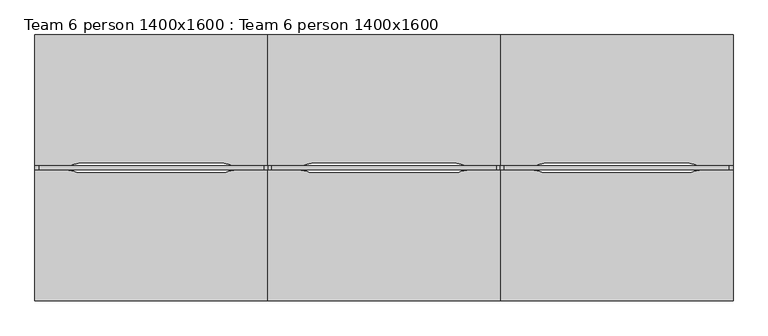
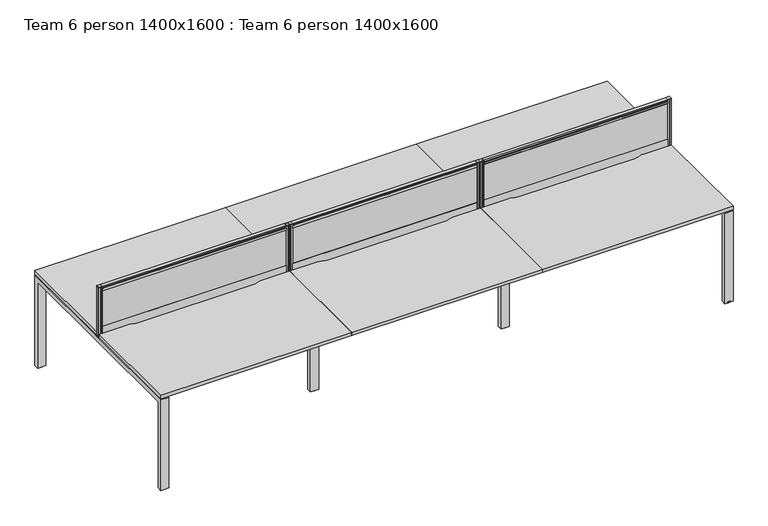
"""IFC4 building model written with IfcOpenShell, lengths in millimetres: furniture geometry, Team 6 person 1400x1600 : Team 6 person 1400x1600."""

from ifc_helpers import new_model, si_unit, point, frame, frame_2d, origin, origin_with_axes, place, context, project, spatial, polyline, circle_curve, trimmed, segment, composite_curve, outline, extrude, faceted_brep, source, transform, mapped, element, save


def team_6_person_1400x1600_team_6_person_1400x1600_f9ec3fc5(model_context):
    return source(origin(), model_context, "Body", "SolidModel", [
        extrude(outline(polyline([(724.2155827, 10.5), (2075.0, 10.5), (2075.0, -10.5), (724.2155827, -10.5), (724.2155827, 10.5)])), frame((0.0, 0.0, 785.0), z_axis=(0.0, 0.0, 1.0), x_axis=(1.0, 0.0, 0.0)), (0.0, 0.0, 1.0), 286.0),
        extrude(outline(polyline([(724.2155827, 12.5), (2075.0, 12.5), (2075.0, -12.5), (724.2155827, -12.5), (724.2155827, 12.5)])), frame((0.0, 0.0, 715.0), z_axis=(0.0, 0.0, 1.0), x_axis=(1.0, 0.0, 0.0)), (0.0, 0.0, 1.0), 75.0),
        extrude(outline(polyline([(12.5, 1100.0), (12.5, 1092.0), (10.5, 1092.0), (10.5, 1083.0), (12.5, 1083.0), (12.5, 1066.0), (-12.5, 1066.0), (-12.5, 1083.0), (-10.5, 1083.0), (-10.5, 1092.0), (-12.5, 1092.0), (-12.5, 1100.0), (12.5, 1100.0)])), frame((724.2155827, 0.0, 0.0), z_axis=(1.0, 0.0, 0.0), x_axis=(0.0, 1.0, 0.0)), (0.0, 0.0, 1.0), 1350.7844173),
        extrude(outline(polyline([(710.2155827, -12.5), (699.2155827, -12.5), (699.2155827, -1.5), (703.2155827, -1.5), (703.2155827, 1.5), (699.2155827, 1.5), (699.2155827, 12.5), (710.2155827, 12.5), (710.2155827, 8.5), (713.2155827, 8.5), (713.2155827, 12.5), (724.2155827, 12.5), (724.2155827, 1.5), (720.2155827, 1.5), (720.2155827, -1.5), (724.2155827, -1.5), (724.2155827, -12.5), (713.2155827, -12.5), (713.2155827, -8.5), (710.2155827, -8.5), (710.2155827, -12.5)])), frame((0.0, 0.0, 718.0), z_axis=(0.0, 0.0, 1.0), x_axis=(1.0, 0.0, 0.0)), (0.0, 0.0, 1.0), 379.0),
        extrude(outline(polyline([(2089.0, -12.5), (2089.0, -8.5), (2086.0, -8.5), (2086.0, -12.5), (2075.0, -12.5), (2075.0, -1.5), (2079.0, -1.5), (2079.0, 1.5), (2075.0, 1.5), (2075.0, 12.5), (2086.0, 12.5), (2086.0, 8.5), (2089.0, 8.5), (2089.0, 12.5), (2100.0, 12.5), (2100.0, 1.5), (2096.0, 1.5), (2096.0, -1.5), (2100.0, -1.5), (2100.0, -12.5), (2089.0, -12.5)])), frame((0.0, 0.0, 718.0), z_axis=(0.0, 0.0, 1.0), x_axis=(1.0, 0.0, 0.0)), (0.0, 0.0, 1.0), 379.0),
        extrude(outline(polyline([(2100.0, 12.5), (2100.0, -12.5), (2075.0, -12.5), (2075.0, 12.5), (2100.0, 12.5)])), frame((0.0, 0.0, 1097.0), z_axis=(0.0, 0.0, 1.0), x_axis=(1.0, 0.0, 0.0)), (0.0, 0.0, 1.0), 3.0),
        extrude(outline(polyline([(699.2155827, 12.5), (724.2155827, 12.5), (724.2155827, -12.5), (699.2155827, -12.5), (699.2155827, 12.5)])), frame((0.0, 0.0, 1097.0), z_axis=(0.0, 0.0, 1.0), x_axis=(1.0, 0.0, 0.0)), (0.0, 0.0, 1.0), 3.0),
        extrude(outline(polyline([(2100.0, 12.5), (2100.0, -12.5), (2075.0, -12.5), (2075.0, 12.5), (2100.0, 12.5)])), frame((0.0, 0.0, 715.0), z_axis=(0.0, 0.0, 1.0), x_axis=(1.0, 0.0, 0.0)), (0.0, 0.0, 1.0), 3.0),
        extrude(outline(polyline([(699.2155827, 12.5), (724.2155827, 12.5), (724.2155827, -12.5), (699.2155827, -12.5), (699.2155827, 12.5)])), frame((0.0, 0.0, 715.0), z_axis=(0.0, 0.0, 1.0), x_axis=(1.0, 0.0, 0.0)), (0.0, 0.0, 1.0), 3.0),
        extrude(outline(polyline([(-724.2155827, 10.5), (-724.2155827, -10.5), (-2075.0, -10.5), (-2075.0, 10.5), (-724.2155827, 10.5)])), frame((0.0, 0.0, 785.0), z_axis=(0.0, 0.0, 1.0), x_axis=(1.0, 0.0, 0.0)), (0.0, 0.0, 1.0), 286.0),
        extrude(outline(polyline([(-724.2155827, 12.5), (-724.2155827, -12.5), (-2075.0, -12.5), (-2075.0, 12.5), (-724.2155827, 12.5)])), frame((0.0, 0.0, 715.0), z_axis=(0.0, 0.0, 1.0), x_axis=(1.0, 0.0, 0.0)), (0.0, 0.0, 1.0), 75.0),
        extrude(outline(polyline([(12.5, 1100.0), (12.5, 1092.0), (10.5, 1092.0), (10.5, 1083.0), (12.5, 1083.0), (12.5, 1066.0), (-12.5, 1066.0), (-12.5, 1083.0), (-10.5, 1083.0), (-10.5, 1092.0), (-12.5, 1092.0), (-12.5, 1100.0), (12.5, 1100.0)])), frame((-2075.0, 0.0, 0.0), z_axis=(1.0, 0.0, 0.0), x_axis=(0.0, 1.0, 0.0)), (0.0, 0.0, 1.0), 1350.7844173),
        extrude(outline(polyline([(-710.2155827, -12.5), (-710.2155827, -8.5), (-713.2155827, -8.5), (-713.2155827, -12.5), (-724.2155827, -12.5), (-724.2155827, -1.5), (-720.2155827, -1.5), (-720.2155827, 1.5), (-724.2155827, 1.5), (-724.2155827, 12.5), (-713.2155827, 12.5), (-713.2155827, 8.5), (-710.2155827, 8.5), (-710.2155827, 12.5), (-699.2155827, 12.5), (-699.2155827, 1.5), (-703.2155827, 1.5), (-703.2155827, -1.5), (-699.2155827, -1.5), (-699.2155827, -12.5), (-710.2155827, -12.5)])), frame((0.0, 0.0, 718.0), z_axis=(0.0, 0.0, 1.0), x_axis=(1.0, 0.0, 0.0)), (0.0, 0.0, 1.0), 379.0),
        extrude(outline(polyline([(-2089.0, -12.5), (-2100.0, -12.5), (-2100.0, -1.5), (-2096.0, -1.5), (-2096.0, 1.5), (-2100.0, 1.5), (-2100.0, 12.5), (-2089.0, 12.5), (-2089.0, 8.5), (-2086.0, 8.5), (-2086.0, 12.5), (-2075.0, 12.5), (-2075.0, 1.5), (-2079.0, 1.5), (-2079.0, -1.5), (-2075.0, -1.5), (-2075.0, -12.5), (-2086.0, -12.5), (-2086.0, -8.5), (-2089.0, -8.5), (-2089.0, -12.5)])), frame((0.0, 0.0, 718.0), z_axis=(0.0, 0.0, 1.0), x_axis=(1.0, 0.0, 0.0)), (0.0, 0.0, 1.0), 379.0),
        extrude(outline(polyline([(-2100.0, 12.5), (-2075.0, 12.5), (-2075.0, -12.5), (-2100.0, -12.5), (-2100.0, 12.5)])), frame((0.0, 0.0, 1097.0), z_axis=(0.0, 0.0, 1.0), x_axis=(1.0, 0.0, 0.0)), (0.0, 0.0, 1.0), 3.0),
        extrude(outline(polyline([(-699.2155827, 12.5), (-699.2155827, -12.5), (-724.2155827, -12.5), (-724.2155827, 12.5), (-699.2155827, 12.5)])), frame((0.0, 0.0, 1097.0), z_axis=(0.0, 0.0, 1.0), x_axis=(1.0, 0.0, 0.0)), (0.0, 0.0, 1.0), 3.0),
        extrude(outline(polyline([(-2100.0, 12.5), (-2075.0, 12.5), (-2075.0, -12.5), (-2100.0, -12.5), (-2100.0, 12.5)])), frame((0.0, 0.0, 715.0), z_axis=(0.0, 0.0, 1.0), x_axis=(1.0, 0.0, 0.0)), (0.0, 0.0, 1.0), 3.0),
        extrude(outline(polyline([(-699.2155827, 12.5), (-699.2155827, -12.5), (-724.2155827, -12.5), (-724.2155827, 12.5), (-699.2155827, 12.5)])), frame((0.0, 0.0, 715.0), z_axis=(0.0, 0.0, 1.0), x_axis=(1.0, 0.0, 0.0)), (0.0, 0.0, 1.0), 3.0),
        extrude(outline(polyline([(675.3922087, 10.5), (675.3922087, -10.5), (-675.3922087, -10.5), (-675.3922087, 10.5), (675.3922087, 10.5)])), frame((0.0, 0.0, 785.0), z_axis=(0.0, 0.0, 1.0), x_axis=(1.0, 0.0, 0.0)), (0.0, 0.0, 1.0), 286.0),
        extrude(outline(polyline([(675.3922087, 12.5), (675.3922087, -12.5), (-675.3922087, -12.5), (-675.3922087, 12.5), (675.3922087, 12.5)])), frame((0.0, 0.0, 715.0), z_axis=(0.0, 0.0, 1.0), x_axis=(1.0, 0.0, 0.0)), (0.0, 0.0, 1.0), 75.0),
        extrude(outline(polyline([(12.5, 1100.0), (12.5, 1092.0), (10.5, 1092.0), (10.5, 1083.0), (12.5, 1083.0), (12.5, 1066.0), (-12.5, 1066.0), (-12.5, 1083.0), (-10.5, 1083.0), (-10.5, 1092.0), (-12.5, 1092.0), (-12.5, 1100.0), (12.5, 1100.0)])), frame((-675.3922087, 0.0, 0.0), z_axis=(1.0, 0.0, 0.0), x_axis=(0.0, 1.0, 0.0)), (0.0, 0.0, 1.0), 1350.7844173),
        extrude(outline(polyline([(689.3922087, -12.5), (689.3922087, -8.5), (686.3922087, -8.5), (686.3922087, -12.5), (675.3922087, -12.5), (675.3922087, -1.5), (679.3922087, -1.5), (679.3922087, 1.5), (675.3922087, 1.5), (675.3922087, 12.5), (686.3922087, 12.5), (686.3922087, 8.5), (689.3922087, 8.5), (689.3922087, 12.5), (700.3922087, 12.5), (700.3922087, 1.5), (696.3922087, 1.5), (696.3922087, -1.5), (700.3922087, -1.5), (700.3922087, -12.5), (689.3922087, -12.5)])), frame((0.0, 0.0, 718.0), z_axis=(0.0, 0.0, 1.0), x_axis=(1.0, 0.0, 0.0)), (0.0, 0.0, 1.0), 379.0),
        extrude(outline(polyline([(-689.3922087, -12.5), (-700.3922087, -12.5), (-700.3922087, -1.5), (-696.3922087, -1.5), (-696.3922087, 1.5), (-700.3922087, 1.5), (-700.3922087, 12.5), (-689.3922087, 12.5), (-689.3922087, 8.5), (-686.3922087, 8.5), (-686.3922087, 12.5), (-675.3922087, 12.5), (-675.3922087, 1.5), (-679.3922087, 1.5), (-679.3922087, -1.5), (-675.3922087, -1.5), (-675.3922087, -12.5), (-686.3922087, -12.5), (-686.3922087, -8.5), (-689.3922087, -8.5), (-689.3922087, -12.5)])), frame((0.0, 0.0, 718.0), z_axis=(0.0, 0.0, 1.0), x_axis=(1.0, 0.0, 0.0)), (0.0, 0.0, 1.0), 379.0),
        extrude(outline(polyline([(-700.3922087, 12.5), (-675.3922087, 12.5), (-675.3922087, -12.5), (-700.3922087, -12.5), (-700.3922087, 12.5)])), frame((0.0, 0.0, 1097.0), z_axis=(0.0, 0.0, 1.0), x_axis=(1.0, 0.0, 0.0)), (0.0, 0.0, 1.0), 3.0),
        extrude(outline(polyline([(700.3922087, 12.5), (700.3922087, -12.5), (675.3922087, -12.5), (675.3922087, 12.5), (700.3922087, 12.5)])), frame((0.0, 0.0, 1097.0), z_axis=(0.0, 0.0, 1.0), x_axis=(1.0, 0.0, 0.0)), (0.0, 0.0, 1.0), 3.0),
        extrude(outline(polyline([(-700.3922087, 12.5), (-675.3922087, 12.5), (-675.3922087, -12.5), (-700.3922087, -12.5), (-700.3922087, 12.5)])), frame((0.0, 0.0, 715.0), z_axis=(0.0, 0.0, 1.0), x_axis=(1.0, 0.0, 0.0)), (0.0, 0.0, 1.0), 3.0),
        extrude(outline(polyline([(700.3922087, 12.5), (700.3922087, -12.5), (675.3922087, -12.5), (675.3922087, 12.5), (700.3922087, 12.5)])), frame((0.0, 0.0, 715.0), z_axis=(0.0, 0.0, 1.0), x_axis=(1.0, 0.0, 0.0)), (0.0, 0.0, 1.0), 3.0),
        faceted_brep([(637.5, 657.5, 675.0), (637.5, 0.0, 675.0), (637.5, -657.5, 675.0), (637.5, -712.5, 700.0), (637.5, -712.5, 715.0), (637.5, 712.5, 715.0), (637.5, 712.5, 700.0), (762.5, 657.5, 675.0), (762.5, 712.5, 700.0), (762.5, 712.5, 715.0), (762.5, -712.5, 715.0), (762.5, -712.5, 700.0), (762.5, -657.5, 675.0), (762.5, 0.0, 675.0), (657.5, 712.5, 715.0), (657.5, 712.5, 702.0), (742.5, 712.5, 702.0), (742.5, 712.5, 715.0), (657.5, -712.5, 715.0), (742.5, -712.5, 715.0), (742.5, -712.5, 702.0), (657.5, -712.5, 702.0)], [[[0, 1, 2, 3, 4, 5, 6]], [[7, 8, 9, 10, 11, 12, 13]], [[0, 6, 8, 7]], [[6, 5, 14, 15, 16, 17, 9, 8]], [[5, 4, 18, 14]], [[10, 9, 17, 19]], [[4, 3, 11, 10, 19, 20, 21, 18]], [[3, 2, 12, 11]], [[2, 1, 13, 12]], [[1, 0, 7, 13]], [[16, 20, 19, 17]], [[20, 16, 15, 21]], [[21, 15, 14, 18]]]),
        extrude(outline(composite_curve([segment(polyline([(700.0, 800.0), (700.0, 15.0), (500.0, 15.0)]), True, "CONTINUOUS"), segment(trimmed(circle_curve(frame_2d((500.0, 115.7784835)), 100.7784835), [point((500.0, 15.0))], [point((465.5317286, 21.0776862))], False, "CARTESIAN"), True, "CONTINUOUS"), segment(trimmed(circle_curve(frame_2d((425.0, -66.523657)), 96.523657), [point((465.5317286, 21.0776862))], [point((425.0, 30.0))], True, "CARTESIAN"), True, "CONTINUOUS"), segment(polyline([(425.0, 30.0), (-425.0, 30.0)]), True, "CONTINUOUS"), segment(trimmed(circle_curve(frame_2d((-425.0, -66.523657)), 96.523657), [point((-425.0, 30.0))], [point((-465.5317286, 21.0776862))], True, "CARTESIAN"), True, "CONTINUOUS"), segment(trimmed(circle_curve(frame_2d((-500.0, 115.7784835)), 100.7784835), [point((-465.5317286, 21.0776862))], [point((-500.0, 15.0))], False, "CARTESIAN"), True, "CONTINUOUS"), segment(polyline([(-500.0, 15.0), (-700.0, 15.0), (-700.0, 800.0), (700.0, 800.0)]), True, "CONTINUOUS")], self_intersect=False)), frame((0.0, 0.0, 715.0), z_axis=(0.0, 0.0, 1.0), x_axis=(1.0, 0.0, 0.0)), (0.0, 0.0, 1.0), 25.0),
        extrude(outline(composite_curve([segment(polyline([(-700.0, 800.0), (-700.0, 15.0), (-900.0, 15.0)]), True, "CONTINUOUS"), segment(trimmed(circle_curve(frame_2d((-900.0, 115.7784835)), 100.7784835), [point((-900.0, 15.0))], [point((-934.4682714, 21.0776862))], False, "CARTESIAN"), True, "CONTINUOUS"), segment(trimmed(circle_curve(frame_2d((-975.0, -66.523657)), 96.523657), [point((-934.4682714, 21.0776862))], [point((-975.0, 30.0))], True, "CARTESIAN"), True, "CONTINUOUS"), segment(polyline([(-975.0, 30.0), (-1825.0, 30.0)]), True, "CONTINUOUS"), segment(trimmed(circle_curve(frame_2d((-1825.0, -66.523657)), 96.523657), [point((-1825.0, 30.0))], [point((-1865.5317286, 21.0776862))], True, "CARTESIAN"), True, "CONTINUOUS"), segment(trimmed(circle_curve(frame_2d((-1900.0, 115.7784835)), 100.7784835), [point((-1865.5317286, 21.0776862))], [point((-1900.0, 15.0))], False, "CARTESIAN"), True, "CONTINUOUS"), segment(polyline([(-1900.0, 15.0), (-2100.0, 15.0), (-2100.0, 800.0), (-700.0, 800.0)]), True, "CONTINUOUS")], self_intersect=False)), frame((0.0, 0.0, 715.0), z_axis=(0.0, 0.0, 1.0), x_axis=(1.0, 0.0, 0.0)), (0.0, 0.0, 1.0), 25.0),
        faceted_brep([(-637.5, 657.5, 675.0), (-637.5, 712.5, 700.0), (-637.5, 712.5, 715.0), (-637.5, -712.5, 715.0), (-637.5, -712.5, 700.0), (-637.5, -657.5, 675.0), (-637.5, 0.0, 675.0), (-762.5, 657.5, 675.0), (-762.5, 0.0, 675.0), (-762.5, -657.5, 675.0), (-762.5, -712.5, 700.0), (-762.5, -712.5, 715.0), (-762.5, 712.5, 715.0), (-762.5, 712.5, 700.0), (-742.5, 712.5, 715.0), (-742.5, 712.5, 702.0), (-657.5, 712.5, 702.0), (-657.5, 712.5, 715.0), (-657.5, -712.5, 715.0), (-742.5, -712.5, 715.0), (-657.5, -712.5, 702.0), (-742.5, -712.5, 702.0)], [[[0, 1, 2, 3, 4, 5, 6]], [[7, 8, 9, 10, 11, 12, 13]], [[1, 0, 7, 13]], [[2, 1, 13, 12, 14, 15, 16, 17]], [[3, 2, 17, 18]], [[12, 11, 19, 14]], [[4, 3, 18, 20, 21, 19, 11, 10]], [[5, 4, 10, 9]], [[6, 5, 9, 8]], [[0, 6, 8, 7]], [[21, 15, 14, 19]], [[15, 21, 20, 16]], [[16, 20, 18, 17]]]),
        extrude(outline(composite_curve([segment(polyline([(700.0, -800.0), (-700.0, -800.0), (-700.0, -15.0), (-500.0, -15.0)]), True, "CONTINUOUS"), segment(trimmed(circle_curve(frame_2d((-500.0, -115.7784835)), 100.7784835), [point((-500.0, -15.0))], [point((-465.5317286, -21.0776862))], False, "CARTESIAN"), True, "CONTINUOUS"), segment(trimmed(circle_curve(frame_2d((-425.0, 66.523657)), 96.523657), [point((-465.5317286, -21.0776862))], [point((-425.0, -30.0))], True, "CARTESIAN"), True, "CONTINUOUS"), segment(polyline([(-425.0, -30.0), (425.0, -30.0)]), True, "CONTINUOUS"), segment(trimmed(circle_curve(frame_2d((425.0, 66.523657)), 96.523657), [point((425.0, -30.0))], [point((465.5317286, -21.0776862))], True, "CARTESIAN"), True, "CONTINUOUS"), segment(trimmed(circle_curve(frame_2d((500.0, -115.7784835)), 100.7784835), [point((465.5317286, -21.0776862))], [point((500.0, -15.0))], False, "CARTESIAN"), True, "CONTINUOUS"), segment(polyline([(500.0, -15.0), (700.0, -15.0), (700.0, -800.0)]), True, "CONTINUOUS")], self_intersect=False)), frame((0.0, 0.0, 715.0), z_axis=(0.0, 0.0, 1.0), x_axis=(1.0, 0.0, 0.0)), (0.0, 0.0, 1.0), 25.0),
        extrude(outline(composite_curve([segment(polyline([(-700.0, -800.0), (-2100.0, -800.0), (-2100.0, -15.0), (-1900.0, -15.0)]), True, "CONTINUOUS"), segment(trimmed(circle_curve(frame_2d((-1900.0, -115.7784835)), 100.7784835), [point((-1900.0, -15.0))], [point((-1865.5317286, -21.0776862))], False, "CARTESIAN"), True, "CONTINUOUS"), segment(trimmed(circle_curve(frame_2d((-1825.0, 66.523657)), 96.523657), [point((-1865.5317286, -21.0776862))], [point((-1825.0, -30.0))], True, "CARTESIAN"), True, "CONTINUOUS"), segment(polyline([(-1825.0, -30.0), (-975.0, -30.0)]), True, "CONTINUOUS"), segment(trimmed(circle_curve(frame_2d((-975.0, 66.523657)), 96.523657), [point((-975.0, -30.0))], [point((-934.4682714, -21.0776862))], True, "CARTESIAN"), True, "CONTINUOUS"), segment(trimmed(circle_curve(frame_2d((-900.0, -115.7784835)), 100.7784835), [point((-934.4682714, -21.0776862))], [point((-900.0, -15.0))], False, "CARTESIAN"), True, "CONTINUOUS"), segment(polyline([(-900.0, -15.0), (-700.0, -15.0), (-700.0, -800.0)]), True, "CONTINUOUS")], self_intersect=False)), frame((0.0, 0.0, 715.0), z_axis=(0.0, 0.0, 1.0), x_axis=(1.0, 0.0, 0.0)), (0.0, 0.0, 1.0), 25.0),
        extrude(outline(polyline([(-330.0, 675.0), (330.0, 675.0), (330.0, 2.0), (295.0, 2.0), (295.0, 640.0), (-295.0, 640.0), (-295.0, 2.0), (-330.0, 2.0), (-330.0, 675.0)])), frame((669.8558066, 0.0, 0.0), z_axis=(1.0, 0.0, 0.0), x_axis=(0.0, 1.0, 0.0)), (0.0, 0.0, 1.0), 60.2883867),
        extrude(outline(composite_curve([segment(trimmed(circle_curve(frame_2d((700.2646407, 312.829711)), 15.0), [point((715.2646407, 312.829711))], [point((685.2646407, 312.829711))], False, "CARTESIAN"), True, "CONTINUOUS"), segment(trimmed(circle_curve(frame_2d((700.2646407, 312.829711)), 15.0), [point((685.2646407, 312.829711))], [point((715.2646407, 312.829711))], False, "CARTESIAN"), True, "CONTINUOUS")], self_intersect=False)), origin_with_axes(), (0.0, 0.0, 1.0), 2.0),
        extrude(outline(composite_curve([segment(trimmed(circle_curve(frame_2d((700.2646407, -312.829711)), 15.0), [point((715.2646407, -312.829711))], [point((685.2646407, -312.829711))], False, "CARTESIAN"), True, "CONTINUOUS"), segment(trimmed(circle_curve(frame_2d((700.2646407, -312.829711)), 15.0), [point((685.2646407, -312.829711))], [point((715.2646407, -312.829711))], False, "CARTESIAN"), True, "CONTINUOUS")], self_intersect=False)), origin_with_axes(), (0.0, 0.0, 1.0), 2.0),
        extrude(outline(composite_curve([segment(trimmed(circle_curve(frame_2d((-700.2646407, 312.829711)), 15.0), [point((-715.2646407, 312.829711))], [point((-685.2646407, 312.829711))], False, "CARTESIAN"), True, "CONTINUOUS"), segment(trimmed(circle_curve(frame_2d((-700.2646407, 312.829711)), 15.0), [point((-685.2646407, 312.829711))], [point((-715.2646407, 312.829711))], False, "CARTESIAN"), True, "CONTINUOUS")], self_intersect=False)), origin_with_axes(), (0.0, 0.0, 1.0), 2.0),
        extrude(outline(polyline([(-330.0, 675.0), (330.0, 675.0), (330.0, 2.0), (295.0, 2.0), (295.0, 640.0), (-295.0, 640.0), (-295.0, 2.0), (-330.0, 2.0), (-330.0, 675.0)])), frame((-730.1441934, 0.0, 0.0), z_axis=(1.0, 0.0, 0.0), x_axis=(0.0, 1.0, 0.0)), (0.0, 0.0, 1.0), 60.2883867),
        extrude(outline(composite_curve([segment(trimmed(circle_curve(frame_2d((-700.2646407, -312.829711)), 15.0), [point((-715.2646407, -312.829711))], [point((-685.2646407, -312.829711))], False, "CARTESIAN"), True, "CONTINUOUS"), segment(trimmed(circle_curve(frame_2d((-700.2646407, -312.829711)), 15.0), [point((-685.2646407, -312.829711))], [point((-715.2646407, -312.829711))], False, "CARTESIAN"), True, "CONTINUOUS")], self_intersect=False)), origin_with_axes(), (0.0, 0.0, 1.0), 2.0),
        extrude(outline(composite_curve([segment(trimmed(circle_curve(frame_2d((-2070.1204473, -782.829711)), 15.0), [point((-2085.1204473, -782.829711))], [point((-2055.1204473, -782.829711))], False, "CARTESIAN"), True, "CONTINUOUS"), segment(trimmed(circle_curve(frame_2d((-2070.1204473, -782.829711)), 15.0), [point((-2055.1204473, -782.829711))], [point((-2085.1204473, -782.829711))], False, "CARTESIAN"), True, "CONTINUOUS")], self_intersect=False)), origin_with_axes(), (0.0, 0.0, 1.0), 2.0),
        extrude(outline(composite_curve([segment(trimmed(circle_curve(frame_2d((2070.1204473, -782.829711)), 15.0), [point((2085.1204473, -782.829711))], [point((2055.1204473, -782.829711))], False, "CARTESIAN"), True, "CONTINUOUS"), segment(trimmed(circle_curve(frame_2d((2070.1204473, -782.829711)), 15.0), [point((2055.1204473, -782.829711))], [point((2085.1204473, -782.829711))], False, "CARTESIAN"), True, "CONTINUOUS")], self_intersect=False)), origin_with_axes(), (0.0, 0.0, 1.0), 2.0),
        extrude(outline(composite_curve([segment(trimmed(circle_curve(frame_2d((-2070.1204473, 782.829711)), 15.0), [point((-2085.1204473, 782.829711))], [point((-2055.1204473, 782.829711))], False, "CARTESIAN"), True, "CONTINUOUS"), segment(trimmed(circle_curve(frame_2d((-2070.1204473, 782.829711)), 15.0), [point((-2055.1204473, 782.829711))], [point((-2085.1204473, 782.829711))], False, "CARTESIAN"), True, "CONTINUOUS")], self_intersect=False)), origin_with_axes(), (0.0, 0.0, 1.0), 2.0),
        extrude(outline(composite_curve([segment(trimmed(circle_curve(frame_2d((2070.1204473, 782.829711)), 15.0), [point((2085.1204473, 782.829711))], [point((2055.1204473, 782.829711))], False, "CARTESIAN"), True, "CONTINUOUS"), segment(trimmed(circle_curve(frame_2d((2070.1204473, 782.829711)), 15.0), [point((2055.1204473, 782.829711))], [point((2085.1204473, 782.829711))], False, "CARTESIAN"), True, "CONTINUOUS")], self_intersect=False)), origin_with_axes(), (0.0, 0.0, 1.0), 2.0),
        extrude(outline(composite_curve([segment(polyline([(2100.0, 800.0), (2100.0, 15.0), (1900.0, 15.0)]), True, "CONTINUOUS"), segment(trimmed(circle_curve(frame_2d((1900.0, 115.7784835)), 100.7784835), [point((1900.0, 15.0))], [point((1865.5317286, 21.0776862))], False, "CARTESIAN"), True, "CONTINUOUS"), segment(trimmed(circle_curve(frame_2d((1825.0, -66.523657)), 96.523657), [point((1865.5317286, 21.0776862))], [point((1825.0, 30.0))], True, "CARTESIAN"), True, "CONTINUOUS"), segment(polyline([(1825.0, 30.0), (975.0, 30.0)]), True, "CONTINUOUS"), segment(trimmed(circle_curve(frame_2d((975.0, -66.523657)), 96.523657), [point((975.0, 30.0))], [point((934.4682714, 21.0776862))], True, "CARTESIAN"), True, "CONTINUOUS"), segment(trimmed(circle_curve(frame_2d((900.0, 115.7784835)), 100.7784835), [point((934.4682714, 21.0776862))], [point((900.0, 15.0))], False, "CARTESIAN"), True, "CONTINUOUS"), segment(polyline([(900.0, 15.0), (700.0, 15.0), (700.0, 800.0), (2100.0, 800.0)]), True, "CONTINUOUS")], self_intersect=False)), frame((0.0, 0.0, 715.0), z_axis=(0.0, 0.0, 1.0), x_axis=(1.0, 0.0, 0.0)), (0.0, 0.0, 1.0), 25.0),
        extrude(outline(composite_curve([segment(polyline([(2100.0, -800.0), (700.0, -800.0), (700.0, -15.0), (900.0, -15.0)]), True, "CONTINUOUS"), segment(trimmed(circle_curve(frame_2d((900.0, -115.7784835)), 100.7784835), [point((900.0, -15.0))], [point((934.4682714, -21.0776862))], False, "CARTESIAN"), True, "CONTINUOUS"), segment(trimmed(circle_curve(frame_2d((975.0, 66.523657)), 96.523657), [point((934.4682714, -21.0776862))], [point((975.0, -30.0))], True, "CARTESIAN"), True, "CONTINUOUS"), segment(polyline([(975.0, -30.0), (1825.0, -30.0)]), True, "CONTINUOUS"), segment(trimmed(circle_curve(frame_2d((1825.0, 66.523657)), 96.523657), [point((1825.0, -30.0))], [point((1865.5317286, -21.0776862))], True, "CARTESIAN"), True, "CONTINUOUS"), segment(trimmed(circle_curve(frame_2d((1900.0, -115.7784835)), 100.7784835), [point((1865.5317286, -21.0776862))], [point((1900.0, -15.0))], False, "CARTESIAN"), True, "CONTINUOUS"), segment(polyline([(1900.0, -15.0), (2100.0, -15.0), (2100.0, -800.0)]), True, "CONTINUOUS")], self_intersect=False)), frame((0.0, 0.0, 715.0), z_axis=(0.0, 0.0, 1.0), x_axis=(1.0, 0.0, 0.0)), (0.0, 0.0, 1.0), 25.0),
        faceted_brep([(2100.0, 800.0, 705.0), (2039.7116133, 800.0, 705.0), (2039.7116133, -800.0, 705.0), (2100.0, -800.0, 705.0), (2039.7116133, 800.0, 2.0), (2100.0, 800.0, 2.0), (2100.0, 765.0, 2.0), (2039.7116133, 765.0, 2.0), (2100.0, -765.0, 2.0), (2100.0, -800.0, 2.0), (2083.3793376, -800.0, 2.0), (2083.3793376, -795.2094596, 2.0), (2056.46789, -795.2094596, 2.0), (2056.46789, -800.0, 2.0), (2039.7116133, -800.0, 2.0), (2039.7116133, -765.0, 2.0), (2100.0, -765.0, 670.0), (2100.0, 765.0, 670.0), (2056.46789, -800.0, 12.0), (2083.3793376, -800.0, 12.0), (2039.7116133, 765.0, 670.0), (2039.7116133, -765.0, 670.0), (2056.46789, -795.2094596, 12.0), (2083.3793376, -795.2094596, 12.0)], [[[0, 1, 2, 3]], [[4, 5, 6, 7]], [[8, 9, 10, 11, 12, 13, 14, 15]], [[0, 3, 9, 8, 16, 17, 6, 5]], [[3, 2, 14, 13, 18, 19, 10, 9]], [[2, 1, 4, 7, 20, 21, 15, 14]], [[1, 0, 5, 4]], [[21, 16, 8, 15]], [[17, 20, 7, 6]], [[20, 17, 16, 21]], [[22, 12, 11, 23]], [[12, 22, 18, 13]], [[23, 11, 10, 19]], [[22, 23, 19, 18]]]),
        extrude(outline(polyline([(-800.0, 705.0), (800.0, 705.0), (800.0, 2.0), (765.0, 2.0), (765.0, 670.0), (-765.0, 670.0), (-765.0, 2.0), (-800.0, 2.0), (-800.0, 705.0)])), frame((-2100.0, 0.0, 0.0), z_axis=(1.0, 0.0, 0.0), x_axis=(0.0, 1.0, 0.0)), (0.0, 0.0, 1.0), 60.2883867),
    ])


if __name__ == "__main__":
    model = new_model("IFC4")
    model_context = context("Model", 3, world=origin())
    ifc_project = project(units=[si_unit("LENGTHUNIT", "METRE", prefix="MILLI")], contexts=[model_context])
    site = spatial("IfcSite", under=ifc_project)
    building = spatial("IfcBuilding", under=site)
    placement = place(None, origin())
    team_6_person_1400x1600_team_6_person_1400x1600_shape = team_6_person_1400x1600_team_6_person_1400x1600_f9ec3fc5(model_context)
    element("IfcFurniture", 1, ObjectType="Team 6 person 1400x1600 : Team 6 person 1400x1600", at=placement, inside=building, context=model_context, shape_type="MappedRepresentation", body=[
        mapped(team_6_person_1400x1600_team_6_person_1400x1600_shape, transform((0.0, 0.0, 0.0), x_axis=(1.0, 0.0, 0.0), y_axis=(0.0, 1.0, 0.0), z_axis=(0.0, 0.0, 1.0))),
    ])
    save(model, "model.ifc")
